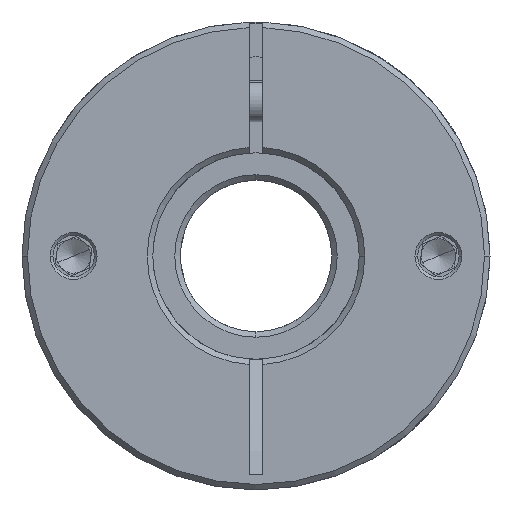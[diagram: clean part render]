
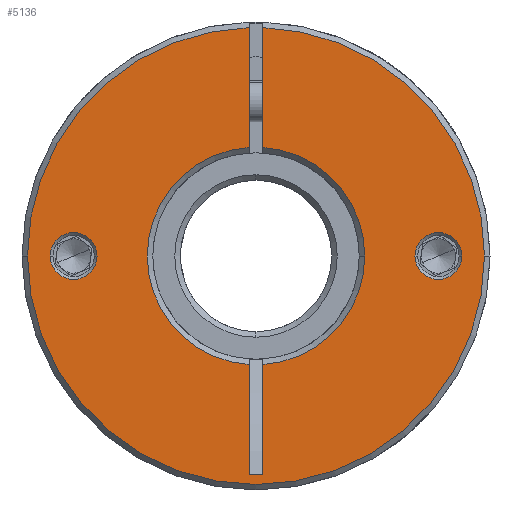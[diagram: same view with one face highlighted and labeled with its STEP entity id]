
A CAD part, front view. The second image highlights one B-rep face of the part: STEP entity #5136.
In plain terms, the highlighted planar face has unit normal (0, -1, 0).
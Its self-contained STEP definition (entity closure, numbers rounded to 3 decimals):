
#153 = CIRCLE ( 'NONE', #12180, 15.8 ) ;
#253 = ORIENTED_EDGE ( 'NONE', *, *, #8973, .T. ) ;
#277 = DIRECTION ( 'NONE',  ( 0., 0., -1. ) ) ;
#557 = DIRECTION ( 'NONE',  ( -1., 0., 0. ) ) ;
#740 = CARTESIAN_POINT ( 'NONE',  ( -3.735, -47.045, 68. ) ) ;
#778 = DIRECTION ( 'NONE',  ( 1., 0., 0. ) ) ;
#838 = AXIS2_PLACEMENT_3D ( 'NONE', #5959, #9079, #12062 ) ;
#930 = CIRCLE ( 'NONE', #1405, 33.2 ) ;
#1062 = ORIENTED_EDGE ( 'NONE', *, *, #10638, .T. ) ;
#1121 = CARTESIAN_POINT ( 'NONE',  ( -3.735, -47.045, 52.232 ) ) ;
#1195 = CARTESIAN_POINT ( 'NONE',  ( -1.735, -47.045, 68. ) ) ;
#1316 = CARTESIAN_POINT ( 'NONE',  ( -29.235, -47.045, 68. ) ) ;
#1328 = DIRECTION ( 'NONE',  ( 0., 0., -1. ) ) ;
#1400 = EDGE_CURVE ( 'NONE', #1573, #5972, #11596, .T. ) ;
#1405 = AXIS2_PLACEMENT_3D ( 'NONE', #4847, #9042, #10033 ) ;
#1419 = VERTEX_POINT ( 'NONE', #8932 ) ;
#1445 = CARTESIAN_POINT ( 'NONE',  ( -1.735, -47.045, 83.768 ) ) ;
#1573 = VERTEX_POINT ( 'NONE', #1121 ) ;
#1576 = AXIS2_PLACEMENT_3D ( 'NONE', #5179, #6363, #3230 ) ;
#1698 = EDGE_CURVE ( 'NONE', #11615, #6573, #5647, .T. ) ;
#1738 = EDGE_CURVE ( 'NONE', #2823, #11615, #930, .T. ) ;
#1787 = DIRECTION ( 'NONE',  ( 0., 1., 0. ) ) ;
#1924 = CARTESIAN_POINT ( 'NONE',  ( 23.765, -47.045, 68. ) ) ;
#2048 = CARTESIAN_POINT ( 'NONE',  ( -2.735, -47.045, 68. ) ) ;
#2110 = FACE_BOUND ( 'NONE', #11298, .T. ) ;
#2143 = DIRECTION ( 'NONE',  ( 0., 1., 0. ) ) ;
#2196 = AXIS2_PLACEMENT_3D ( 'NONE', #1924, #12153, #778 ) ;
#2217 = CARTESIAN_POINT ( 'NONE',  ( -25.835, -47.045, 68. ) ) ;
#2315 = CARTESIAN_POINT ( 'NONE',  ( -2.735, -47.045, 68. ) ) ;
#2420 = ORIENTED_EDGE ( 'NONE', *, *, #4878, .T. ) ;
#2823 = VERTEX_POINT ( 'NONE', #2976 ) ;
#2882 = EDGE_CURVE ( 'NONE', #2955, #3347, #8502, .T. ) ;
#2888 = AXIS2_PLACEMENT_3D ( 'NONE', #9297, #12426, #6284 ) ;
#2955 = VERTEX_POINT ( 'NONE', #9293 ) ;
#2976 = CARTESIAN_POINT ( 'NONE',  ( 30.465, -47.045, 68. ) ) ;
#2997 = EDGE_LOOP ( 'NONE', ( #4071, #11971 ) ) ;
#3112 = CIRCLE ( 'NONE', #838, 3.4 ) ;
#3140 = EDGE_CURVE ( 'NONE', #4062, #5972, #11070, .T. ) ;
#3198 = DIRECTION ( 'NONE',  ( 1., 0., 0. ) ) ;
#3230 = DIRECTION ( 'NONE',  ( 1., 0., 0. ) ) ;
#3347 = VERTEX_POINT ( 'NONE', #4995 ) ;
#3398 = VECTOR ( 'NONE', #277, 1000. ) ;
#3665 = ORIENTED_EDGE ( 'NONE', *, *, #3140, .T. ) ;
#3901 = CARTESIAN_POINT ( 'NONE',  ( -2.735, -47.045, 68. ) ) ;
#4062 = VERTEX_POINT ( 'NONE', #4301 ) ;
#4071 = ORIENTED_EDGE ( 'NONE', *, *, #2882, .T. ) ;
#4200 = ORIENTED_EDGE ( 'NONE', *, *, #5530, .T. ) ;
#4254 = CARTESIAN_POINT ( 'NONE',  ( -3.735, -47.045, 68. ) ) ;
#4301 = CARTESIAN_POINT ( 'NONE',  ( -1.735, -47.045, 36.279 ) ) ;
#4425 = DIRECTION ( 'NONE',  ( 0., -1., 0. ) ) ;
#4462 = CARTESIAN_POINT ( 'NONE',  ( -3.735, -47.045, 83.768 ) ) ;
#4597 = ORIENTED_EDGE ( 'NONE', *, *, #12532, .F. ) ;
#4847 = CARTESIAN_POINT ( 'NONE',  ( -2.735, -47.045, 68. ) ) ;
#4878 = EDGE_CURVE ( 'NONE', #1573, #5608, #6005, .T. ) ;
#4899 = EDGE_CURVE ( 'NONE', #3347, #2955, #3112, .T. ) ;
#4995 = CARTESIAN_POINT ( 'NONE',  ( 20.365, -47.045, 68. ) ) ;
#5027 = VECTOR ( 'NONE', #10014, 1000. ) ;
#5136 = ADVANCED_FACE ( 'NONE', ( #10339, #2110, #12762 ), #9437, .T. ) ;
#5174 = EDGE_CURVE ( 'NONE', #9053, #10154, #11608, .T. ) ;
#5179 = CARTESIAN_POINT ( 'NONE',  ( -2.735, -47.045, 68. ) ) ;
#5246 = ORIENTED_EDGE ( 'NONE', *, *, #6557, .T. ) ;
#5408 = CARTESIAN_POINT ( 'NONE',  ( -1.735, -47.045, 101.185 ) ) ;
#5530 = EDGE_CURVE ( 'NONE', #6162, #1419, #12272, .T. ) ;
#5608 = VERTEX_POINT ( 'NONE', #4462 ) ;
#5647 = LINE ( 'NONE', #11815, #11584 ) ;
#5660 = ORIENTED_EDGE ( 'NONE', *, *, #12475, .T. ) ;
#5674 = ORIENTED_EDGE ( 'NONE', *, *, #1698, .T. ) ;
#5959 = CARTESIAN_POINT ( 'NONE',  ( 23.765, -47.045, 68. ) ) ;
#5972 = VERTEX_POINT ( 'NONE', #6531 ) ;
#5975 = VECTOR ( 'NONE', #1328, 1000. ) ;
#6005 = CIRCLE ( 'NONE', #6127, 15.8 ) ;
#6091 = VECTOR ( 'NONE', #557, 1000. ) ;
#6127 = AXIS2_PLACEMENT_3D ( 'NONE', #8936, #1787, #8984 ) ;
#6162 = VERTEX_POINT ( 'NONE', #10890 ) ;
#6284 = DIRECTION ( 'NONE',  ( 1., 0., 0. ) ) ;
#6319 = CARTESIAN_POINT ( 'NONE',  ( -2.735, -47.045, 68. ) ) ;
#6340 = CIRCLE ( 'NONE', #1576, 33.2 ) ;
#6363 = DIRECTION ( 'NONE',  ( 0., -1., 0. ) ) ;
#6387 = DIRECTION ( 'NONE',  ( 1., 0., 0. ) ) ;
#6531 = CARTESIAN_POINT ( 'NONE',  ( -3.735, -47.045, 36.279 ) ) ;
#6557 = EDGE_CURVE ( 'NONE', #12523, #12322, #153, .T. ) ;
#6573 = VERTEX_POINT ( 'NONE', #1445 ) ;
#7492 = CIRCLE ( 'NONE', #2888, 3.4 ) ;
#7687 = DIRECTION ( 'NONE',  ( 0., 0., -1. ) ) ;
#7997 = ORIENTED_EDGE ( 'NONE', *, *, #12177, .T. ) ;
#8502 = CIRCLE ( 'NONE', #2196, 3.4 ) ;
#8696 = DIRECTION ( 'NONE',  ( 1., 0., 0. ) ) ;
#8932 = CARTESIAN_POINT ( 'NONE',  ( -35.935, -47.045, 68. ) ) ;
#8936 = CARTESIAN_POINT ( 'NONE',  ( -2.735, -47.045, 68. ) ) ;
#8952 = DIRECTION ( 'NONE',  ( 1., 0., 0. ) ) ;
#8973 = EDGE_CURVE ( 'NONE', #10154, #9053, #7492, .T. ) ;
#8984 = DIRECTION ( 'NONE',  ( 1., 0., 0. ) ) ;
#9042 = DIRECTION ( 'NONE',  ( 0., -1., 0. ) ) ;
#9053 = VERTEX_POINT ( 'NONE', #12861 ) ;
#9060 = ORIENTED_EDGE ( 'NONE', *, *, #5174, .T. ) ;
#9079 = DIRECTION ( 'NONE',  ( 0., 1., 0. ) ) ;
#9290 = DIRECTION ( 'NONE',  ( 1., 0., 0. ) ) ;
#9293 = CARTESIAN_POINT ( 'NONE',  ( 27.165, -47.045, 68. ) ) ;
#9297 = CARTESIAN_POINT ( 'NONE',  ( -29.235, -47.045, 68. ) ) ;
#9337 = DIRECTION ( 'NONE',  ( 0., -1., 0. ) ) ;
#9437 = PLANE ( 'NONE',  #13274 ) ;
#9635 = EDGE_LOOP ( 'NONE', ( #4597, #4200, #1062, #12725, #5674, #7997, #5246, #5660, #3665, #9782, #2420 ) ) ;
#9771 = CARTESIAN_POINT ( 'NONE',  ( -3.735, -47.045, 36.279 ) ) ;
#9782 = ORIENTED_EDGE ( 'NONE', *, *, #1400, .F. ) ;
#10014 = DIRECTION ( 'NONE',  ( 0., 0., -1. ) ) ;
#10033 = DIRECTION ( 'NONE',  ( 1., 0., 0. ) ) ;
#10146 = LINE ( 'NONE', #1195, #3398 ) ;
#10154 = VERTEX_POINT ( 'NONE', #2217 ) ;
#10160 = AXIS2_PLACEMENT_3D ( 'NONE', #3901, #12579, #8952 ) ;
#10174 = AXIS2_PLACEMENT_3D ( 'NONE', #2048, #9337, #9290 ) ;
#10313 = CARTESIAN_POINT ( 'NONE',  ( -1.735, -47.045, 52.232 ) ) ;
#10339 = FACE_BOUND ( 'NONE', #2997, .T. ) ;
#10411 = DIRECTION ( 'NONE',  ( 0., 1., 0. ) ) ;
#10638 = EDGE_CURVE ( 'NONE', #1419, #2823, #6340, .T. ) ;
#10890 = CARTESIAN_POINT ( 'NONE',  ( -3.735, -47.045, 101.185 ) ) ;
#10947 = AXIS2_PLACEMENT_3D ( 'NONE', #1316, #2143, #3198 ) ;
#11070 = LINE ( 'NONE', #9771, #6091 ) ;
#11270 = CIRCLE ( 'NONE', #10160, 15.8 ) ;
#11298 = EDGE_LOOP ( 'NONE', ( #253, #9060 ) ) ;
#11471 = CARTESIAN_POINT ( 'NONE',  ( 13.065, -47.045, 68. ) ) ;
#11584 = VECTOR ( 'NONE', #7687, 1000. ) ;
#11596 = LINE ( 'NONE', #740, #5027 ) ;
#11608 = CIRCLE ( 'NONE', #10947, 3.4 ) ;
#11615 = VERTEX_POINT ( 'NONE', #5408 ) ;
#11815 = CARTESIAN_POINT ( 'NONE',  ( -1.735, -47.045, 68. ) ) ;
#11971 = ORIENTED_EDGE ( 'NONE', *, *, #4899, .T. ) ;
#12062 = DIRECTION ( 'NONE',  ( 1., 0., 0. ) ) ;
#12153 = DIRECTION ( 'NONE',  ( 0., 1., 0. ) ) ;
#12177 = EDGE_CURVE ( 'NONE', #6573, #12523, #11270, .T. ) ;
#12180 = AXIS2_PLACEMENT_3D ( 'NONE', #6319, #10411, #8696 ) ;
#12272 = CIRCLE ( 'NONE', #10174, 33.2 ) ;
#12322 = VERTEX_POINT ( 'NONE', #10313 ) ;
#12426 = DIRECTION ( 'NONE',  ( 0., 1., 0. ) ) ;
#12475 = EDGE_CURVE ( 'NONE', #12322, #4062, #10146, .T. ) ;
#12523 = VERTEX_POINT ( 'NONE', #11471 ) ;
#12532 = EDGE_CURVE ( 'NONE', #6162, #5608, #12886, .T. ) ;
#12579 = DIRECTION ( 'NONE',  ( 0., 1., 0. ) ) ;
#12725 = ORIENTED_EDGE ( 'NONE', *, *, #1738, .T. ) ;
#12762 = FACE_OUTER_BOUND ( 'NONE', #9635, .T. ) ;
#12861 = CARTESIAN_POINT ( 'NONE',  ( -32.635, -47.045, 68. ) ) ;
#12886 = LINE ( 'NONE', #4254, #5975 ) ;
#13274 = AXIS2_PLACEMENT_3D ( 'NONE', #2315, #4425, #6387 ) ;
